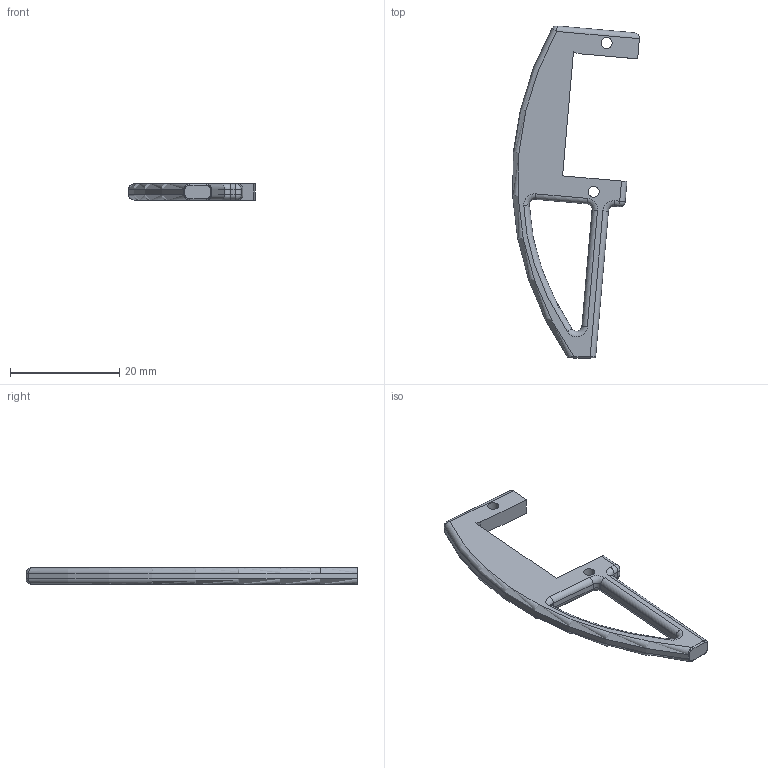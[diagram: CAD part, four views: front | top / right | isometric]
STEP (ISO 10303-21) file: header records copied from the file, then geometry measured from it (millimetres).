
FILE_DESCRIPTION(/* description */ ('STEP AP242 Edition 2','CAx-IF Rec.Pracs.---Representation and Presentation of Product Manufacturing Information (PMI)---4.0---2014-10-13','CAx-IF Rec.Pracs.---3D Tessellated Geometry---0.4---2014-09-14','2;1','CAx-IF Rec.Pracs.---User Defined Attributes---1.5---2016-08-15'),/* implementation_level */ '2;1');
FILE_NAME(/* name */ 'Assembly 1 - Part 1 (3)',/* time_stamp */ '2026-06-04T16:20:00Z',/* author */ (''),/* organization */ (''),/* preprocessor_version */ 'ST-DEVELOPER v20',/* originating_system */ 'ONSHAPE BY PTC INC, 1.215',/* authorisation */ ' ');
FILE_SCHEMA (('AP242_MANAGED_MODEL_BASED_3D_ENGINEERING_MIM_LF { 1 0 10303 442 3 1 4 }'));
Length unit declared in the file: metre
Products named in the file (1): Part 1
Bounding box: 23.19 x 60.67 x 3 mm (x, y, z)
Volume: 1542.6 mm3; surface area: 1657.6 mm2
Topology: 1 solids, 1 shells, 61 faces, 143 edges, 80 vertices
Faces by surface type: cylinder 26, plane 14, torus 10, bspline 7, sphere 4
Full cylindrical faces by diameter (mm): 2 x2
Entity records: 1812 total; most frequent: CARTESIAN_POINT 413, DIRECTION 307, ORIENTED_EDGE 274, EDGE_CURVE 137, AXIS2_PLACEMENT_3D 123, VERTEX_POINT 80, EDGE_LOOP 69, FACE_BOUND 69
